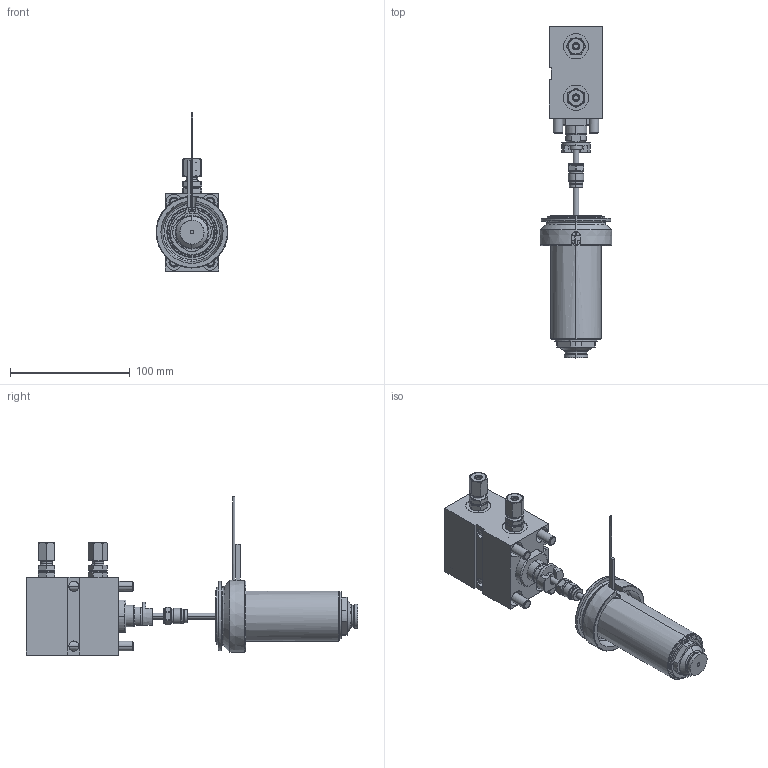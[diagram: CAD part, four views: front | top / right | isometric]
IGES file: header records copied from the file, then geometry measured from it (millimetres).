
Start section: Write IGES format                                    datakit 2008 (c)
Global section: file name: Unknown; native system: DATAKIT Converter; preprocessor: Unknown; author: Unknown; organization: Unknown; date: 950613.180003; units: millimetre
Bounding box: 59.93 x 277.5 x 132.15 mm (x, y, z)
Surface area: 152884 mm2 (no closed solid volume)
Topology: 0 solids, 0 shells, 800 faces, 3612 edges, 3594 vertices
Faces by surface type: revolution 516, bspline 284
